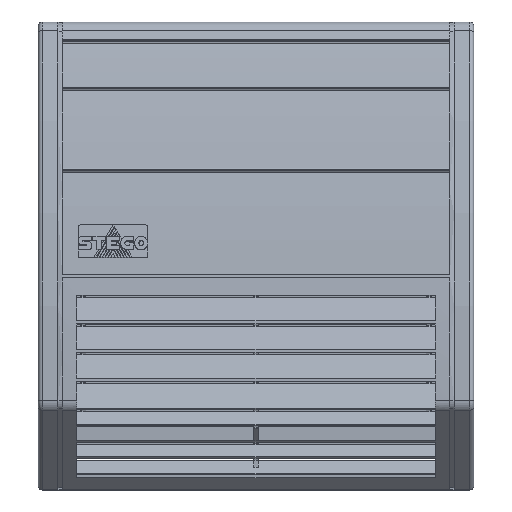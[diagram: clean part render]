
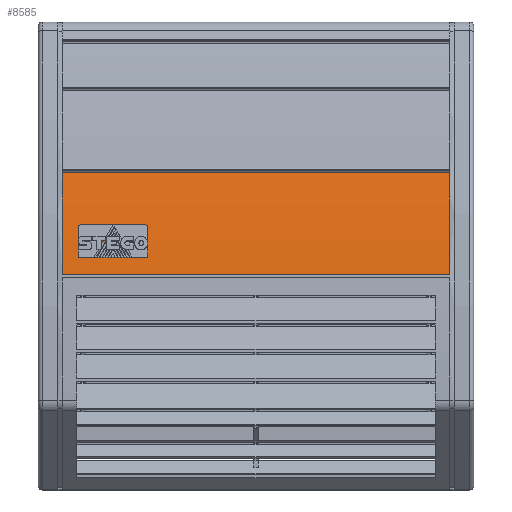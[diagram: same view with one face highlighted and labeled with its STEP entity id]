
A CAD part, top view. The second image highlights one B-rep face of the part: STEP entity #8585.
In plain terms, the highlighted cylindrical face has radius 530 mm (diameter 1060 mm), a partial arc.
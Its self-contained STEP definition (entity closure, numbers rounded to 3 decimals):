
#694 = DIRECTION ( 'NONE',  ( 0., 0., -1. ) ) ;
#771 = DIRECTION ( 'NONE',  ( 0., 0., -1. ) ) ;
#1034 = CIRCLE ( 'NONE', #11647, 530. ) ;
#1492 = VECTOR ( 'NONE', #5751, 1000. ) ;
#1611 = CARTESIAN_POINT ( 'NONE',  ( 210., 34.769, -480.436 ) ) ;
#2041 = CARTESIAN_POINT ( 'NONE',  ( 198.5, 103.7, 45.062 ) ) ;
#3017 = CIRCLE ( 'NONE', #17776, 530. ) ;
#3123 = AXIS2_PLACEMENT_3D ( 'NONE', #1611, #9237, #15305 ) ;
#4231 = CARTESIAN_POINT ( 'NONE',  ( 200.996, 153.2, 36.162 ) ) ;
#4359 = VERTEX_POINT ( 'NONE', #5095 ) ;
#4591 = DIRECTION ( 'NONE',  ( -1., 0., 0. ) ) ;
#5095 = CARTESIAN_POINT ( 'NONE',  ( 198.5, 153.2, 36.162 ) ) ;
#5199 = CYLINDRICAL_SURFACE ( 'NONE', #3123, 530. ) ;
#5751 = DIRECTION ( 'NONE',  ( -1., 0., 0. ) ) ;
#5847 = EDGE_CURVE ( 'NONE', #9891, #10177, #10252, .T. ) ;
#6199 = VECTOR ( 'NONE', #4591, 1000. ) ;
#7600 = FACE_OUTER_BOUND ( 'NONE', #17514, .T. ) ;
#8585 = ADVANCED_FACE ( 'NONE', ( #7600 ), #5199, .T. ) ;
#9237 = DIRECTION ( 'NONE',  ( -1., 0., 0. ) ) ;
#9789 = DIRECTION ( 'NONE',  ( 1., 0., 0. ) ) ;
#9870 = DIRECTION ( 'NONE',  ( 1., 0., 0. ) ) ;
#9891 = VERTEX_POINT ( 'NONE', #2041 ) ;
#9929 = EDGE_CURVE ( 'NONE', #11257, #10177, #1034, .T. ) ;
#10177 = VERTEX_POINT ( 'NONE', #11772 ) ;
#10252 = LINE ( 'NONE', #15196, #6199 ) ;
#11257 = VERTEX_POINT ( 'NONE', #16160 ) ;
#11647 = AXIS2_PLACEMENT_3D ( 'NONE', #18687, #9789, #694 ) ;
#11772 = CARTESIAN_POINT ( 'NONE',  ( 11.5, 103.7, 45.062 ) ) ;
#12585 = ORIENTED_EDGE ( 'NONE', *, *, #14975, .F. ) ;
#12932 = EDGE_CURVE ( 'NONE', #4359, #11257, #14041, .T. ) ;
#13505 = ORIENTED_EDGE ( 'NONE', *, *, #5847, .F. ) ;
#14041 = LINE ( 'NONE', #4231, #1492 ) ;
#14975 = EDGE_CURVE ( 'NONE', #4359, #9891, #3017, .T. ) ;
#15196 = CARTESIAN_POINT ( 'NONE',  ( 200.423, 103.7, 45.062 ) ) ;
#15305 = DIRECTION ( 'NONE',  ( 0., 0., 1. ) ) ;
#16160 = CARTESIAN_POINT ( 'NONE',  ( 11.5, 153.2, 36.162 ) ) ;
#17119 = ORIENTED_EDGE ( 'NONE', *, *, #12932, .T. ) ;
#17514 = EDGE_LOOP ( 'NONE', ( #18109, #13505, #12585, #17119 ) ) ;
#17776 = AXIS2_PLACEMENT_3D ( 'NONE', #18771, #9870, #771 ) ;
#18109 = ORIENTED_EDGE ( 'NONE', *, *, #9929, .T. ) ;
#18687 = CARTESIAN_POINT ( 'NONE',  ( 11.5, 34.769, -480.436 ) ) ;
#18771 = CARTESIAN_POINT ( 'NONE',  ( 198.5, 34.769, -480.436 ) ) ;
